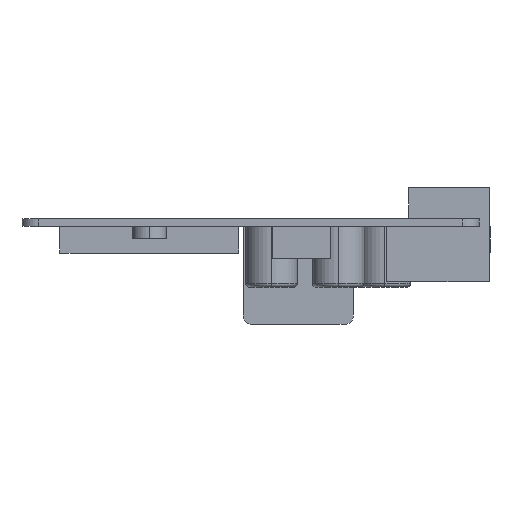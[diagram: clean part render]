
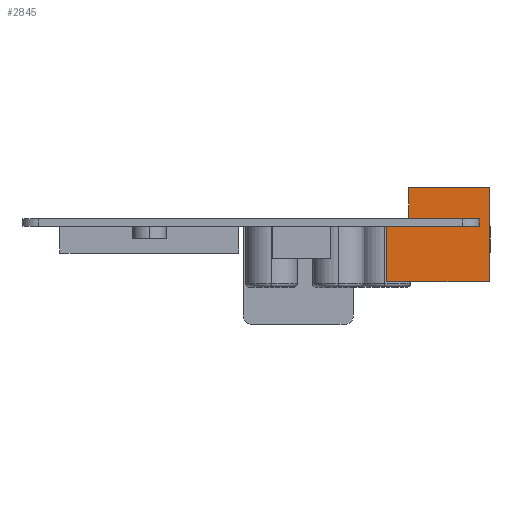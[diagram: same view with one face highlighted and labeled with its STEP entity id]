
A CAD part, left-side view. The second image highlights one B-rep face of the part: STEP entity #2845.
In plain terms, the highlighted planar face has unit normal (-1, 0, 0).
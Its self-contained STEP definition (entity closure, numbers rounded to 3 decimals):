
#19 = DIRECTION ( 'NONE',  ( 0., -1., 0. ) ) ;
#62 = CARTESIAN_POINT ( 'NONE',  ( -104.4, -16.95, -6.8 ) ) ;
#144 = ORIENTED_EDGE ( 'NONE', *, *, #3068, .T. ) ;
#290 = CARTESIAN_POINT ( 'NONE',  ( -104.4, -16.95, -6.8 ) ) ;
#401 = ORIENTED_EDGE ( 'NONE', *, *, #4879, .F. ) ;
#947 = DIRECTION ( 'NONE',  ( 0., 1., 0. ) ) ;
#961 = CARTESIAN_POINT ( 'NONE',  ( -104.4, -7.05, 4.7 ) ) ;
#1101 = VERTEX_POINT ( 'NONE', #2700 ) ;
#1339 = FACE_OUTER_BOUND ( 'NONE', #1388, .T. ) ;
#1388 = EDGE_LOOP ( 'NONE', ( #144, #1487, #4624, #1984, #401, #2483 ) ) ;
#1487 = ORIENTED_EDGE ( 'NONE', *, *, #4249, .F. ) ;
#1637 = CARTESIAN_POINT ( 'NONE',  ( -104.4, -16.95, 0. ) ) ;
#1921 = CARTESIAN_POINT ( 'NONE',  ( -104.4, -16.95, 4.7 ) ) ;
#1984 = ORIENTED_EDGE ( 'NONE', *, *, #2837, .T. ) ;
#2006 = VECTOR ( 'NONE', #4070, 1000. ) ;
#2337 = LINE ( 'NONE', #3852, #6603 ) ;
#2396 = VECTOR ( 'NONE', #6192, 1000. ) ;
#2483 = ORIENTED_EDGE ( 'NONE', *, *, #4360, .F. ) ;
#2700 = CARTESIAN_POINT ( 'NONE',  ( -104.4, -7.05, 4.7 ) ) ;
#2837 = EDGE_CURVE ( 'NONE', #3771, #4011, #3471, .T. ) ;
#2845 = ADVANCED_FACE ( 'NONE', ( #1339 ), #5283, .F. ) ;
#2963 = CARTESIAN_POINT ( 'NONE',  ( -104.4, -4.35, -6.8 ) ) ;
#3060 = LINE ( 'NONE', #62, #4013 ) ;
#3068 = EDGE_CURVE ( 'NONE', #4928, #7272, #4421, .T. ) ;
#3371 = EDGE_CURVE ( 'NONE', #1101, #3771, #3654, .T. ) ;
#3471 = LINE ( 'NONE', #1637, #4916 ) ;
#3631 = VERTEX_POINT ( 'NONE', #2963 ) ;
#3641 = VECTOR ( 'NONE', #19, 1000. ) ;
#3654 = LINE ( 'NONE', #961, #2006 ) ;
#3771 = VERTEX_POINT ( 'NONE', #3899 ) ;
#3818 = AXIS2_PLACEMENT_3D ( 'NONE', #290, #7087, #5898 ) ;
#3852 = CARTESIAN_POINT ( 'NONE',  ( -104.4, -4.35, -6.8 ) ) ;
#3899 = CARTESIAN_POINT ( 'NONE',  ( -104.4, -7.05, 0. ) ) ;
#4011 = VERTEX_POINT ( 'NONE', #5370 ) ;
#4013 = VECTOR ( 'NONE', #5730, 1000. ) ;
#4070 = DIRECTION ( 'NONE',  ( 0., 0., -1. ) ) ;
#4249 = EDGE_CURVE ( 'NONE', #1101, #7272, #7909, .T. ) ;
#4360 = EDGE_CURVE ( 'NONE', #4928, #3631, #3060, .T. ) ;
#4421 = LINE ( 'NONE', #5597, #2396 ) ;
#4624 = ORIENTED_EDGE ( 'NONE', *, *, #3371, .T. ) ;
#4879 = EDGE_CURVE ( 'NONE', #3631, #4011, #2337, .T. ) ;
#4916 = VECTOR ( 'NONE', #947, 1000. ) ;
#4928 = VERTEX_POINT ( 'NONE', #5755 ) ;
#5283 = PLANE ( 'NONE',  #3818 ) ;
#5370 = CARTESIAN_POINT ( 'NONE',  ( -104.4, -4.35, 0. ) ) ;
#5506 = CARTESIAN_POINT ( 'NONE',  ( -104.4, -16.95, 4.7 ) ) ;
#5597 = CARTESIAN_POINT ( 'NONE',  ( -104.4, -16.95, -6.8 ) ) ;
#5730 = DIRECTION ( 'NONE',  ( 0., 1., 0. ) ) ;
#5755 = CARTESIAN_POINT ( 'NONE',  ( -104.4, -16.95, -6.8 ) ) ;
#5898 = DIRECTION ( 'NONE',  ( 0., 0., -1. ) ) ;
#6192 = DIRECTION ( 'NONE',  ( 0., 0., 1. ) ) ;
#6603 = VECTOR ( 'NONE', #7503, 1000. ) ;
#7087 = DIRECTION ( 'NONE',  ( 1., 0., 0. ) ) ;
#7272 = VERTEX_POINT ( 'NONE', #1921 ) ;
#7503 = DIRECTION ( 'NONE',  ( 0., 0., 1. ) ) ;
#7909 = LINE ( 'NONE', #5506, #3641 ) ;
